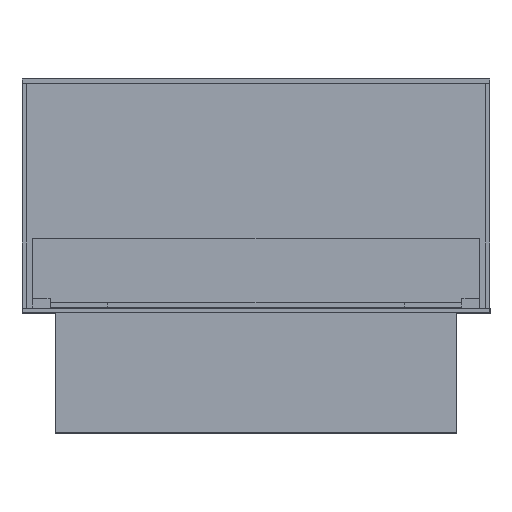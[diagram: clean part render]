
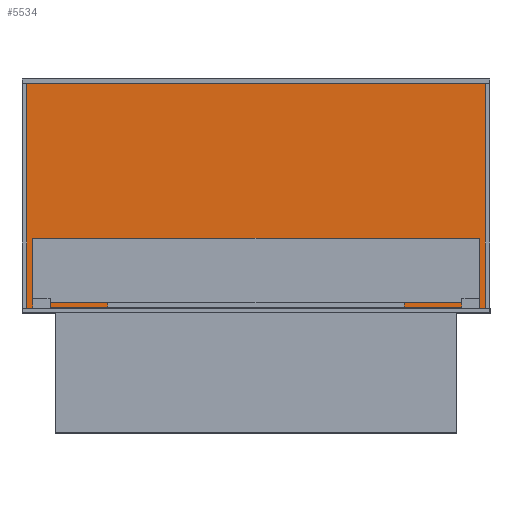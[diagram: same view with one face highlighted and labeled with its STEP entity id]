
A CAD part, top view. The second image highlights one B-rep face of the part: STEP entity #5534.
In plain terms, the highlighted planar face has unit normal (0, 0, 1).
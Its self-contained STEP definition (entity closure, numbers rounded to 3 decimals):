
#9 = DIRECTION ( 'NONE',  ( 1., 0., 0. ) ) ;
#239 = VERTEX_POINT ( 'NONE', #1424 ) ;
#259 = EDGE_CURVE ( 'NONE', #307, #1383, #373, .T. ) ;
#307 = VERTEX_POINT ( 'NONE', #2461 ) ;
#373 = LINE ( 'NONE', #974, #6037 ) ;
#473 = ORIENTED_EDGE ( 'NONE', *, *, #259, .T. ) ;
#523 = DIRECTION ( 'NONE',  ( -1., 0., 0. ) ) ;
#631 = CARTESIAN_POINT ( 'NONE',  ( -793.615, -203.917, -296.501 ) ) ;
#902 = DIRECTION ( 'NONE',  ( 1., 0., 0. ) ) ;
#974 = CARTESIAN_POINT ( 'NONE',  ( -793.615, -203.917, -296.501 ) ) ;
#1169 = CARTESIAN_POINT ( 'NONE',  ( 6.385, 196.083, -296.501 ) ) ;
#1318 = EDGE_CURVE ( 'NONE', #2496, #239, #3459, .T. ) ;
#1383 = VERTEX_POINT ( 'NONE', #5570 ) ;
#1424 = CARTESIAN_POINT ( 'NONE',  ( -793.615, 196.083, -296.501 ) ) ;
#1574 = CARTESIAN_POINT ( 'NONE',  ( -793.615, 196.083, -296.501 ) ) ;
#1970 = VECTOR ( 'NONE', #523, 1000. ) ;
#2011 = AXIS2_PLACEMENT_3D ( 'NONE', #631, #5512, #9 ) ;
#2223 = CARTESIAN_POINT ( 'NONE',  ( 6.385, 196.083, -296.501 ) ) ;
#2461 = CARTESIAN_POINT ( 'NONE',  ( -793.615, -203.917, -296.501 ) ) ;
#2484 = EDGE_CURVE ( 'NONE', #239, #307, #2720, .T. ) ;
#2496 = VERTEX_POINT ( 'NONE', #1169 ) ;
#2693 = DIRECTION ( 'NONE',  ( 0., -1., 0. ) ) ;
#2720 = LINE ( 'NONE', #3215, #4506 ) ;
#2768 = ORIENTED_EDGE ( 'NONE', *, *, #3122, .T. ) ;
#2859 = LINE ( 'NONE', #2223, #3158 ) ;
#3122 = EDGE_CURVE ( 'NONE', #1383, #2496, #2859, .T. ) ;
#3158 = VECTOR ( 'NONE', #5267, 1000. ) ;
#3215 = CARTESIAN_POINT ( 'NONE',  ( -793.615, 196.083, -296.501 ) ) ;
#3433 = PLANE ( 'NONE',  #2011 ) ;
#3459 = LINE ( 'NONE', #1574, #1970 ) ;
#3746 = EDGE_LOOP ( 'NONE', ( #5856, #473, #2768, #6070 ) ) ;
#4294 = FACE_OUTER_BOUND ( 'NONE', #3746, .T. ) ;
#4506 = VECTOR ( 'NONE', #2693, 1000. ) ;
#5267 = DIRECTION ( 'NONE',  ( 0., 1., 0. ) ) ;
#5512 = DIRECTION ( 'NONE',  ( 0., 0., 1. ) ) ;
#5534 = ADVANCED_FACE ( 'NONE', ( #4294 ), #3433, .T. ) ;
#5570 = CARTESIAN_POINT ( 'NONE',  ( 6.385, -203.917, -296.501 ) ) ;
#5856 = ORIENTED_EDGE ( 'NONE', *, *, #2484, .T. ) ;
#6037 = VECTOR ( 'NONE', #902, 1000. ) ;
#6070 = ORIENTED_EDGE ( 'NONE', *, *, #1318, .T. ) ;
